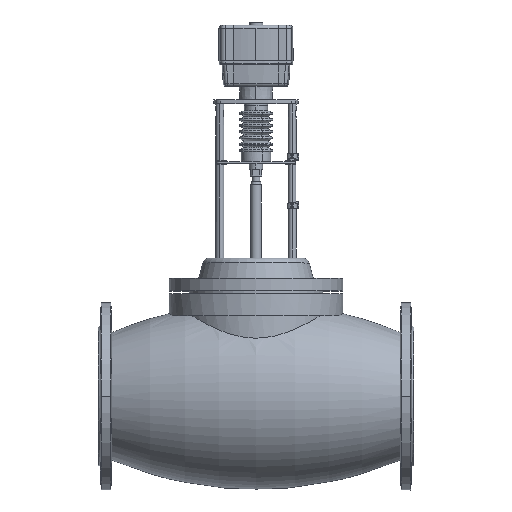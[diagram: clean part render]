
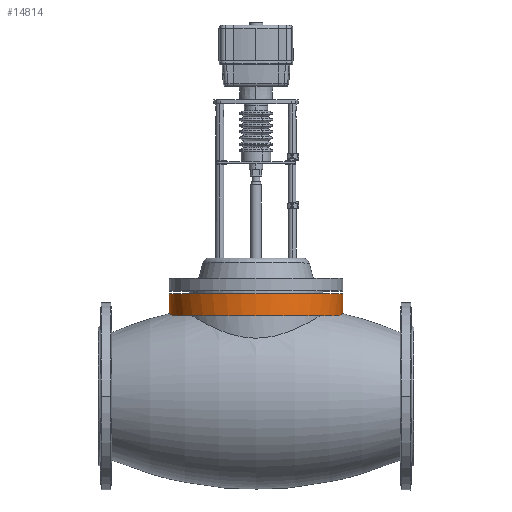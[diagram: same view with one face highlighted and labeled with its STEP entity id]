
A CAD part, top view. The second image highlights one B-rep face of the part: STEP entity #14814.
In plain terms, the highlighted cylindrical face has radius 132 mm (diameter 264 mm), a partial arc.
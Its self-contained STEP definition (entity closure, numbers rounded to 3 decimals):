
#44 = CARTESIAN_POINT ( 'NONE',  ( -397.485, 187.541, -98. ) ) ;
#310 = CARTESIAN_POINT ( 'NONE',  ( -397.478, 187.535, -96.601 ) ) ;
#973 = CARTESIAN_POINT ( 'NONE',  ( -396.329, 186.61, -80.566 ) ) ;
#1339 = DIRECTION ( 'NONE',  ( 0., -1., 0. ) ) ;
#1352 = ORIENTED_EDGE ( 'NONE', *, *, #6944, .F. ) ;
#1522 = DIRECTION ( 'NONE',  ( -1., 0., 0. ) ) ;
#1641 = CARTESIAN_POINT ( 'NONE',  ( -134.403, 186.801, -82.451 ) ) ;
#1644 = VECTOR ( 'NONE', #7941, 1000. ) ;
#2164 = VERTEX_POINT ( 'NONE', #13955 ) ;
#2478 = CARTESIAN_POINT ( 'NONE',  ( -396.396, 186.664, -81.079 ) ) ;
#2578 = DIRECTION ( 'NONE',  ( -1., 0., 0. ) ) ;
#2663 = AXIS2_PLACEMENT_3D ( 'NONE', #9929, #1339, #2578 ) ;
#2666 = CARTESIAN_POINT ( 'NONE',  ( -396.092, 186.419, -78.85 ) ) ;
#2787 = AXIS2_PLACEMENT_3D ( 'NONE', #9453, #16887, #15199 ) ;
#2811 = DIRECTION ( 'NONE',  ( 0., 1., 0. ) ) ;
#2961 = CARTESIAN_POINT ( 'NONE',  ( -134.153, 187.002, -84.714 ) ) ;
#3220 = CARTESIAN_POINT ( 'NONE',  ( -397.485, 187.541, -98. ) ) ;
#3301 = EDGE_CURVE ( 'NONE', #14771, #2164, #4824, .T. ) ;
#3676 = CARTESIAN_POINT ( 'NONE',  ( -133.485, 260.625, -98. ) ) ;
#3800 = CARTESIAN_POINT ( 'NONE',  ( -397.374, 187.451, -92.408 ) ) ;
#3867 = CIRCLE ( 'NONE', #2663, 132. ) ;
#4065 = FACE_OUTER_BOUND ( 'NONE', #8948, .T. ) ;
#4159 = CARTESIAN_POINT ( 'NONE',  ( -396.374, 186.646, -80.909 ) ) ;
#4560 = CARTESIAN_POINT ( 'NONE',  ( -135.258, 186.114, -75.742 ) ) ;
#4638 = CARTESIAN_POINT ( 'NONE',  ( -397.466, 187.525, -95.552 ) ) ;
#4750 = CARTESIAN_POINT ( 'NONE',  ( -137.698, 184.157, -64.918 ) ) ;
#4824 = LINE ( 'NONE', #3676, #1644 ) ;
#5703 = CARTESIAN_POINT ( 'NONE',  ( -133.485, 187.541, -98. ) ) ;
#5742 = CARTESIAN_POINT ( 'NONE',  ( -397.485, 260.625, -98. ) ) ;
#6063 = CARTESIAN_POINT ( 'NONE',  ( -397.485, 187.541, -97.649 ) ) ;
#6446 = CARTESIAN_POINT ( 'NONE',  ( -136.305, 185.272, -70.298 ) ) ;
#6790 = VERTEX_POINT ( 'NONE', #17981 ) ;
#6821 = CYLINDRICAL_SURFACE ( 'NONE', #2787, 132. ) ;
#6944 = EDGE_CURVE ( 'NONE', #18027, #6790, #15444, .T. ) ;
#7107 = CARTESIAN_POINT ( 'NONE',  ( -393.97, 184.715, -67.612 ) ) ;
#7410 = CARTESIAN_POINT ( 'NONE',  ( -134.467, 186.75, -81.929 ) ) ;
#7506 = ORIENTED_EDGE ( 'NONE', *, *, #12880, .F. ) ;
#7941 = DIRECTION ( 'NONE',  ( 0., 1., 0. ) ) ;
#8721 = CARTESIAN_POINT ( 'NONE',  ( -134.262, 186.915, -83.669 ) ) ;
#8948 = EDGE_LOOP ( 'NONE', ( #13781, #16812, #11730, #1352, #7506, #10146 ) ) ;
#9453 = CARTESIAN_POINT ( 'NONE',  ( -265.485, 260.625, -98. ) ) ;
#9560 = CARTESIAN_POINT ( 'NONE',  ( -397.441, 187.505, -94.504 ) ) ;
#9722 = CARTESIAN_POINT ( 'NONE',  ( -137.698, 184.157, -64.918 ) ) ;
#9926 = CARTESIAN_POINT ( 'NONE',  ( -397.041, 187.183, -86.823 ) ) ;
#9929 = CARTESIAN_POINT ( 'NONE',  ( -265.485, 184.157, -98. ) ) ;
#10138 = CARTESIAN_POINT ( 'NONE',  ( -133.953, 187.164, -86.806 ) ) ;
#10146 = ORIENTED_EDGE ( 'NONE', *, *, #16549, .F. ) ;
#10970 = CARTESIAN_POINT ( 'NONE',  ( -394.581, 185.205, -70.322 ) ) ;
#11540 = CARTESIAN_POINT ( 'NONE',  ( -133.574, 187.469, -92.395 ) ) ;
#11716 = EDGE_CURVE ( 'NONE', #14771, #13145, #16978, .T. ) ;
#11730 = ORIENTED_EDGE ( 'NONE', *, *, #12055, .T. ) ;
#11944 = CARTESIAN_POINT ( 'NONE',  ( -133.485, 187.541, -98. ) ) ;
#12012 = B_SPLINE_CURVE_WITH_KNOTS ( 'NONE', 3,
 ( #12658, #7107, #10970, #18387, #15299, #15573, #2666, #18478, #973, #4159, #2478, #13969, #9926, #16710, #3800, #9560, #4638, #310, #17167, #6063, #3220 ),
 .UNSPECIFIED., .F., .F.,
 ( 4, 2, 2, 1, 1, 2, 2, 2, 2, 1, 2, 4 ),
 ( 0., 0.125, 0.188, 0.219, 0.235, 0.242, 0.25, 0.375, 0.438, 0.469, 0.485, 0.501 ),
 .UNSPECIFIED. ) ;
#12055 = EDGE_CURVE ( 'NONE', #2164, #6790, #13869, .T. ) ;
#12569 = VECTOR ( 'NONE', #2811, 1000. ) ;
#12658 = CARTESIAN_POINT ( 'NONE',  ( -393.272, 184.157, -64.918 ) ) ;
#12668 = AXIS2_PLACEMENT_3D ( 'NONE', #15942, #14435, #1522 ) ;
#12880 = EDGE_CURVE ( 'NONE', #18080, #18027, #12012, .T. ) ;
#13136 = CARTESIAN_POINT ( 'NONE',  ( -134.51, 186.715, -81.581 ) ) ;
#13145 = VERTEX_POINT ( 'NONE', #9722 ) ;
#13781 = ORIENTED_EDGE ( 'NONE', *, *, #11716, .F. ) ;
#13869 = CIRCLE ( 'NONE', #12668, 132. ) ;
#13870 = CARTESIAN_POINT ( 'NONE',  ( -393.272, 184.157, -64.918 ) ) ;
#13955 = CARTESIAN_POINT ( 'NONE',  ( -133.485, 217.5, -98. ) ) ;
#13969 = CARTESIAN_POINT ( 'NONE',  ( -396.774, 186.968, -84.035 ) ) ;
#14435 = DIRECTION ( 'NONE',  ( 0., -1., 0. ) ) ;
#14771 = VERTEX_POINT ( 'NONE', #11944 ) ;
#14814 = ADVANCED_FACE ( 'NONE', ( #4065 ), #6821, .T. ) ;
#15199 = DIRECTION ( 'NONE',  ( -1., 0., 0. ) ) ;
#15299 = CARTESIAN_POINT ( 'NONE',  ( -395.607, 186.03, -75.771 ) ) ;
#15444 = LINE ( 'NONE', #5742, #12569 ) ;
#15573 = CARTESIAN_POINT ( 'NONE',  ( -395.936, 186.294, -77.823 ) ) ;
#15869 = CARTESIAN_POINT ( 'NONE',  ( -133.485, 187.541, -95.196 ) ) ;
#15942 = CARTESIAN_POINT ( 'NONE',  ( -265.485, 217.5, -98. ) ) ;
#16549 = EDGE_CURVE ( 'NONE', #13145, #18080, #3867, .T. ) ;
#16710 = CARTESIAN_POINT ( 'NONE',  ( -397.308, 187.397, -91.011 ) ) ;
#16812 = ORIENTED_EDGE ( 'NONE', *, *, #3301, .T. ) ;
#16887 = DIRECTION ( 'NONE',  ( 0., 1., 0. ) ) ;
#16978 = B_SPLINE_CURVE_WITH_KNOTS ( 'NONE', 3,
 ( #5703, #15869, #11540, #17278, #10138, #2961, #8721, #1641, #7410, #13136, #17465, #4560, #6446, #4750 ),
 .UNSPECIFIED., .F., .F.,
 ( 4, 2, 2, 1, 1, 2, 2, 4 ),
 ( 0.501, 0.625, 0.688, 0.719, 0.735, 0.743, 0.75, 1. ),
 .UNSPECIFIED. ) ;
#17167 = CARTESIAN_POINT ( 'NONE',  ( -397.484, 187.54, -97.3 ) ) ;
#17278 = CARTESIAN_POINT ( 'NONE',  ( -133.842, 187.253, -88.202 ) ) ;
#17465 = CARTESIAN_POINT ( 'NONE',  ( -134.532, 186.697, -81.405 ) ) ;
#17981 = CARTESIAN_POINT ( 'NONE',  ( -397.485, 217.5, -98. ) ) ;
#18027 = VERTEX_POINT ( 'NONE', #44 ) ;
#18080 = VERTEX_POINT ( 'NONE', #13870 ) ;
#18387 = CARTESIAN_POINT ( 'NONE',  ( -395.367, 185.836, -74.406 ) ) ;
#18478 = CARTESIAN_POINT ( 'NONE',  ( -396.26, 186.554, -80.051 ) ) ;
